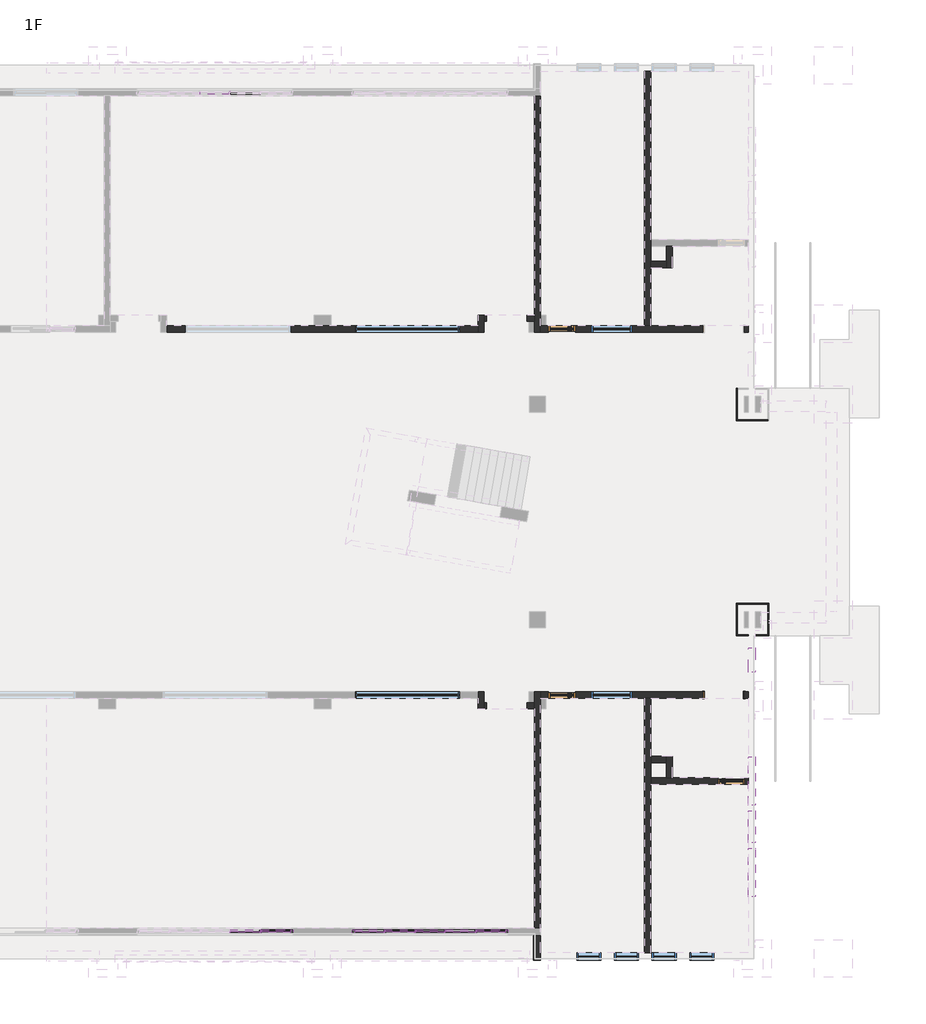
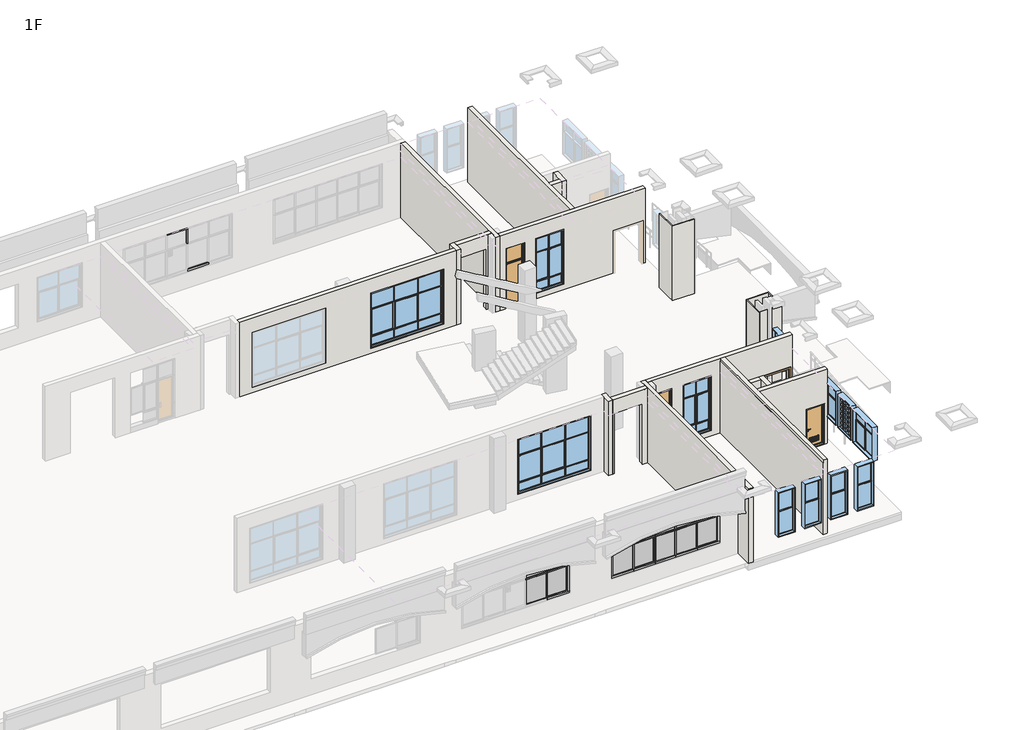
# One storey, part 6 of 16: 36 members, 24 walls, 12 windows, 11 plates, 4 doors.
"""IFC4 building model written with IfcOpenShell, lengths in millimetres."""

from ifc_helpers import new_model, si_unit, origin, origin_with_axes, place, context, project, spatial, polyline, outline, extrude, faceted_brep, transform, mapped, element, save
from components import dk2_dk2_fd451be2, m2_m2_dfb05117, m2_m2_a1934b10, m3_m3_9c525ee5, member_7564be38, member_1f4d75dd, member_0b7842ad, member_163d5e45, member_ffafc35e, member_2b011958, member_9c26cac3, member_6c42befd, member_a374fdad, plate_f4dba16c, plate_1cc4df2b, plate_4fa5932a, plate_00f9c624, plate_18a10205, window_f154a97f, lc1_lc1_e150ab57, lc2_lc2_a0e1ef0e, lc5_lc5_223d64ff, lc5_lc5_9ec79463, lc6_lc6_03a52bd1, lc7_lc7_d4e3c0d7, lc7a_lc7a_17cb4d8c

model = new_model("IFC4")

# Units and contexts
model_context = context("Model", 3, world=origin())
ifc_project = project(units=[si_unit("LENGTHUNIT", "METRE", prefix="MILLI")], contexts=[model_context])

# Site, building, storey
site = spatial("IfcSite", under=ifc_project)
building = spatial("IfcBuilding", under=site)
storey = spatial("IfcBuildingStorey", under=building, Name="1F", Elevation=0.0)

# Doors
placement = place(None, origin())
dk2_dk2_shape = dk2_dk2_fd451be2(model_context)
element("IfcDoor", 1, ObjectType="DK2 : DK2", at=placement, inside=storey, context=model_context, shape_type="MappedRepresentation", body=[
    mapped(dk2_dk2_shape, transform((81925.0, 9800.7769004, 0.0), x_axis=(-1.0, 0.0, 0.0), y_axis=(0.0, -1.0, 0.0), z_axis=(0.0, 0.0, 1.0))),
])
m2_m2_shape = m2_m2_dfb05117(model_context)
element("IfcDoor", 2, ObjectType="M2 : M2", at=placement, inside=storey, context=model_context, shape_type="MappedRepresentation", body=[
    mapped(m2_m2_shape, transform((75909.9999978, 23399.2230996, 0.0), x_axis=(1.0, 0.0, 0.0), y_axis=(0.0, 1.0, 0.0), z_axis=(0.0, 0.0, 1.0))),
])
m2_m2_2_shape = m2_m2_a1934b10(model_context)
element("IfcDoor", 3, ObjectType="M2 : M2", at=placement, inside=storey, context=model_context, shape_type="MappedRepresentation", body=[
    mapped(m2_m2_2_shape, transform((75909.9999978, 9800.7769004, 0.0), x_axis=(1.0, 0.0, 0.0), y_axis=(0.0, 1.0, 0.0), z_axis=(0.0, 0.0, 1.0))),
])
m3_m3_shape = m3_m3_9c525ee5(model_context)
element("IfcDoor", 4, ObjectType="M3 : M3", at=placement, inside=storey, context=model_context, shape_type="MappedRepresentation", body=[
    mapped(m3_m3_shape, transform((82209.9999983, 6600.7769004, 0.0), x_axis=(-1.0, 0.0, 0.0), y_axis=(0.0, -1.0, 0.0), z_axis=(0.0, 0.0, 1.0))),
])

# Members
member_shape = member_7564be38(model_context)
element("IfcMember", 5, ObjectType="矩形竖梃 : 教学楼 – 矩形竖梃 – 100x150mm", at=placement, inside=storey, context=model_context, shape_type="MappedRepresentation", body=[
    mapped(member_shape, transform((65909.9999985, 1000.0, 3400.0), x_axis=(0.0, 0.0, 1.0), y_axis=(0.0, -1.0, 0.0), z_axis=(1.0, 0.0, 0.0))),
])
element("IfcMember", 6, ObjectType="矩形竖梃 : 教学楼 – 矩形竖梃 – 100x150mm", at=placement, inside=storey, context=model_context, shape_type="MappedRepresentation", body=[
    mapped(member_shape, transform((73909.9999985, 1000.0, 3400.0), x_axis=(0.0, 0.0, 1.0), y_axis=(0.0, -1.0, 0.0), z_axis=(1.0, 0.0, 0.0))),
])
element("IfcMember", 7, ObjectType="矩形竖梃 : 教学楼 – 矩形竖梃 – 100x150mm", at=placement, inside=storey, context=model_context, shape_type="MappedRepresentation", body=[
    mapped(member_shape, transform((68109.9999985, 1000.0, 900.0), x_axis=(0.0, 0.0, -1.0), y_axis=(0.0, -1.0, 0.0), z_axis=(-1.0, 0.0, 0.0))),
])
member_2_shape = member_1f4d75dd(model_context)
element("IfcMember", 8, ObjectType="矩形竖梃 : 教学楼 – 矩形竖梃 – 50x150mm", at=placement, inside=storey, context=model_context, shape_type="MappedRepresentation", body=[
    mapped(member_2_shape, transform((70459.9999985, 1000.0, 1000.0), x_axis=(1.0, 0.0, 0.0), y_axis=(0.0, -1.0, 0.0), z_axis=(0.0, 0.0, -1.0))),
])
element("IfcMember", 9, ObjectType="矩形竖梃 : 教学楼 – 矩形竖梃 – 50x150mm", at=placement, inside=storey, context=model_context, shape_type="MappedRepresentation", body=[
    mapped(member_2_shape, transform((71559.9999985, 1000.0, 1000.0), x_axis=(1.0, 0.0, 0.0), y_axis=(0.0, -1.0, 0.0), z_axis=(0.0, 0.0, -1.0))),
])
member_3_shape = member_0b7842ad(model_context)
element("IfcMember", 10, ObjectType="矩形竖梃 : 教学楼 – 矩形竖梃 – 50x150mm", at=placement, inside=storey, context=model_context, shape_type="MappedRepresentation", body=[
    mapped(member_3_shape, transform((69309.9999985, 1000.0, 2450.0), x_axis=(0.0, 0.0, 1.0), y_axis=(0.0, -1.0, 0.0), z_axis=(1.0, 0.0, 0.0))),
])
member_4_shape = member_163d5e45(model_context)
element("IfcMember", 11, ObjectType="矩形竖梃 : 教学楼 – 矩形竖梃 – 50x150mm", at=placement, inside=storey, context=model_context, shape_type="MappedRepresentation", body=[
    mapped(member_4_shape, transform((64709.9999985, 1000.0, 2450.0), x_axis=(0.0, 0.0, 1.0), y_axis=(0.0, -1.0, 0.0), z_axis=(1.0, 0.0, 0.0))),
])
element("IfcMember", 12, ObjectType="矩形竖梃 : 教学楼 – 矩形竖梃 – 50x150mm", at=placement, inside=storey, context=model_context, shape_type="MappedRepresentation", body=[
    mapped(member_4_shape, transform((70459.9999985, 1000.0, 2450.0), x_axis=(0.0, 0.0, 1.0), y_axis=(0.0, -1.0, 0.0), z_axis=(1.0, 0.0, 0.0))),
])
element("IfcMember", 13, ObjectType="矩形竖梃 : 教学楼 – 矩形竖梃 – 50x150mm", at=placement, inside=storey, context=model_context, shape_type="MappedRepresentation", body=[
    mapped(member_4_shape, transform((72709.9999985, 1000.0, 2450.0), x_axis=(0.0, 0.0, 1.0), y_axis=(0.0, -1.0, 0.0), z_axis=(1.0, 0.0, 0.0))),
])
element("IfcMember", 14, ObjectType="矩形竖梃 : 教学楼 – 矩形竖梃 – 50x150mm", at=placement, inside=storey, context=model_context, shape_type="MappedRepresentation", body=[
    mapped(member_3_shape, transform((71559.9999985, 1000.0, 2450.0), x_axis=(0.0, 0.0, 1.0), y_axis=(0.0, -1.0, 0.0), z_axis=(1.0, 0.0, 0.0))),
])
element("IfcMember", 15, ObjectType="矩形竖梃 : 教学楼 – 矩形竖梃 – 50x150mm", at=placement, inside=storey, context=model_context, shape_type="MappedRepresentation", body=[
    mapped(member_3_shape, transform((65809.9999985, 1000.0, 2450.0), x_axis=(0.0, 0.0, 1.0), y_axis=(0.0, -1.0, 0.0), z_axis=(1.0, 0.0, 0.0))),
])
element("IfcMember", 16, ObjectType="矩形竖梃 : 教学楼 – 矩形竖梃 – 50x150mm", at=placement, inside=storey, context=model_context, shape_type="MappedRepresentation", body=[
    mapped(member_3_shape, transform((73809.9999985, 1000.0, 2450.0), x_axis=(0.0, 0.0, 1.0), y_axis=(0.0, -1.0, 0.0), z_axis=(1.0, 0.0, 0.0))),
])
member_5_shape = member_ffafc35e(model_context)
element("IfcMember", 17, ObjectType="矩形竖梃 : 教学楼 – 矩形竖梃 – 100x150mm", at=placement, inside=storey, context=model_context, shape_type="MappedRepresentation", body=[
    mapped(member_5_shape, transform((69309.9999985, 1000.0, 900.0), x_axis=(0.0, 0.0, -1.0), y_axis=(0.0, -1.0, 0.0), z_axis=(-1.0, 0.0, 0.0))),
])
member_6_shape = member_2b011958(model_context)
element("IfcMember", 18, ObjectType="矩形竖梃 : 教学楼 – 矩形竖梃 – 100x150mm", at=placement, inside=storey, context=model_context, shape_type="MappedRepresentation", body=[
    mapped(member_6_shape, transform((70459.9999985, 1000.0, 900.0), x_axis=(0.0, 0.0, -1.0), y_axis=(0.0, -1.0, 0.0), z_axis=(-1.0, 0.0, 0.0))),
])
element("IfcMember", 19, ObjectType="矩形竖梃 : 教学楼 – 矩形竖梃 – 100x150mm", at=placement, inside=storey, context=model_context, shape_type="MappedRepresentation", body=[
    mapped(member_5_shape, transform((71559.9999985, 1000.0, 900.0), x_axis=(0.0, 0.0, -1.0), y_axis=(0.0, -1.0, 0.0), z_axis=(-1.0, 0.0, 0.0))),
])
element("IfcMember", 20, ObjectType="矩形竖梃 : 教学楼 – 矩形竖梃 – 100x150mm", at=placement, inside=storey, context=model_context, shape_type="MappedRepresentation", body=[
    mapped(member_shape, transform((64709.9999985, 1000.0, 900.0), x_axis=(0.0, 0.0, -1.0), y_axis=(0.0, -1.0, 0.0), z_axis=(-1.0, 0.0, 0.0))),
])
element("IfcMember", 21, ObjectType="矩形竖梃 : 教学楼 – 矩形竖梃 – 100x150mm", at=placement, inside=storey, context=model_context, shape_type="MappedRepresentation", body=[
    mapped(member_shape, transform((72709.9999985, 1000.0, 900.0), x_axis=(0.0, 0.0, -1.0), y_axis=(0.0, -1.0, 0.0), z_axis=(-1.0, 0.0, 0.0))),
])
element("IfcMember", 22, ObjectType="矩形竖梃 : 教学楼 – 矩形竖梃 – 100x150mm", at=placement, inside=storey, context=model_context, shape_type="MappedRepresentation", body=[
    mapped(member_shape, transform((69309.9999985, 1000.0, 3400.0), x_axis=(0.0, 0.0, 1.0), y_axis=(0.0, -1.0, 0.0), z_axis=(1.0, 0.0, 0.0))),
])
element("IfcMember", 23, ObjectType="矩形竖梃 : 教学楼 – 矩形竖梃 – 100x150mm", at=placement, inside=storey, context=model_context, shape_type="MappedRepresentation", body=[
    mapped(member_5_shape, transform((64709.9999985, 1000.0, 3400.0), x_axis=(0.0, 0.0, 1.0), y_axis=(0.0, -1.0, 0.0), z_axis=(1.0, 0.0, 0.0))),
])
element("IfcMember", 24, ObjectType="矩形竖梃 : 教学楼 – 矩形竖梃 – 100x150mm", at=placement, inside=storey, context=model_context, shape_type="MappedRepresentation", body=[
    mapped(member_5_shape, transform((70459.9999985, 1000.0, 3400.0), x_axis=(0.0, 0.0, 1.0), y_axis=(0.0, -1.0, 0.0), z_axis=(1.0, 0.0, 0.0))),
])
element("IfcMember", 25, ObjectType="矩形竖梃 : 教学楼 – 矩形竖梃 – 100x150mm", at=placement, inside=storey, context=model_context, shape_type="MappedRepresentation", body=[
    mapped(member_5_shape, transform((72709.9999985, 1000.0, 3400.0), x_axis=(0.0, 0.0, 1.0), y_axis=(0.0, -1.0, 0.0), z_axis=(1.0, 0.0, 0.0))),
])
element("IfcMember", 26, ObjectType="矩形竖梃 : 教学楼 – 矩形竖梃 – 100x150mm", at=placement, inside=storey, context=model_context, shape_type="MappedRepresentation", body=[
    mapped(member_6_shape, transform((71559.9999985, 1000.0, 3400.0), x_axis=(0.0, 0.0, 1.0), y_axis=(0.0, -1.0, 0.0), z_axis=(1.0, 0.0, 0.0))),
])
member_7_shape = member_9c26cac3(model_context)
element("IfcMember", 27, ObjectType="矩形竖梃 : 教学楼 – 矩形竖梃 – 50x150mm", at=placement, inside=storey, context=model_context, shape_type="MappedRepresentation", body=[
    mapped(member_7_shape, transform((64709.9999985, 1000.0, 2475.0), x_axis=(1.0, 0.0, 0.0), y_axis=(0.0, -1.0, 0.0), z_axis=(0.0, 0.0, -1.0))),
])
element("IfcMember", 28, ObjectType="矩形竖梃 : 教学楼 – 矩形竖梃 – 50x150mm", at=placement, inside=storey, context=model_context, shape_type="MappedRepresentation", body=[
    mapped(member_7_shape, transform((69309.9999985, 1000.0, 2475.0), x_axis=(1.0, 0.0, 0.0), y_axis=(0.0, -1.0, 0.0), z_axis=(0.0, 0.0, -1.0))),
])
element("IfcMember", 29, ObjectType="矩形竖梃 : 教学楼 – 矩形竖梃 – 50x150mm", at=placement, inside=storey, context=model_context, shape_type="MappedRepresentation", body=[
    mapped(member_7_shape, transform((70459.9999985, 1000.0, 2475.0), x_axis=(1.0, 0.0, 0.0), y_axis=(0.0, -1.0, 0.0), z_axis=(0.0, 0.0, -1.0))),
])
element("IfcMember", 30, ObjectType="矩形竖梃 : 教学楼 – 矩形竖梃 – 50x150mm", at=placement, inside=storey, context=model_context, shape_type="MappedRepresentation", body=[
    mapped(member_7_shape, transform((71559.9999985, 1000.0, 2475.0), x_axis=(1.0, 0.0, 0.0), y_axis=(0.0, -1.0, 0.0), z_axis=(0.0, 0.0, -1.0))),
])
element("IfcMember", 31, ObjectType="矩形竖梃 : 教学楼 – 矩形竖梃 – 50x150mm", at=placement, inside=storey, context=model_context, shape_type="MappedRepresentation", body=[
    mapped(member_7_shape, transform((72709.9999985, 1000.0, 2475.0), x_axis=(1.0, 0.0, 0.0), y_axis=(0.0, -1.0, 0.0), z_axis=(0.0, 0.0, -1.0))),
])
member_8_shape = member_6c42befd(model_context)
element("IfcMember", 32, ObjectType="矩形竖梃 : 教学楼 – 矩形竖梃 – 100x150mm", at=placement, inside=storey, context=model_context, shape_type="MappedRepresentation", body=[
    mapped(member_8_shape, transform((68109.9999985, 1000.0, 3300.0), x_axis=(-1.0, 0.0, 0.0), y_axis=(0.0, -1.0, 0.0), z_axis=(0.0, 0.0, 1.0))),
])
member_9_shape = member_a374fdad(model_context)
element("IfcMember", 33, ObjectType="矩形竖梃 : 教学楼 – 矩形竖梃 – 100x150mm", at=placement, inside=storey, context=model_context, shape_type="MappedRepresentation", body=[
    mapped(member_9_shape, transform((65909.9999985, 1000.0, 1000.0), x_axis=(1.0, 0.0, 0.0), y_axis=(0.0, -1.0, 0.0), z_axis=(0.0, 0.0, -1.0))),
])
element("IfcMember", 34, ObjectType="矩形竖梃 : 教学楼 – 矩形竖梃 – 100x150mm", at=placement, inside=storey, context=model_context, shape_type="MappedRepresentation", body=[
    mapped(member_9_shape, transform((73909.9999985, 1000.0, 1000.0), x_axis=(1.0, 0.0, 0.0), y_axis=(0.0, -1.0, 0.0), z_axis=(0.0, 0.0, -1.0))),
])
element("IfcMember", 35, ObjectType="矩形竖梃 : 教学楼 – 矩形竖梃 – 100x150mm", at=placement, inside=storey, context=model_context, shape_type="MappedRepresentation", body=[
    mapped(member_8_shape, transform((65909.9999985, 1000.0, 2450.0), x_axis=(1.0, 0.0, 0.0), y_axis=(0.0, -1.0, 0.0), z_axis=(0.0, 0.0, -1.0))),
])
element("IfcMember", 36, ObjectType="矩形竖梃 : 教学楼 – 矩形竖梃 – 100x150mm", at=placement, inside=storey, context=model_context, shape_type="MappedRepresentation", body=[
    mapped(member_8_shape, transform((73909.9999985, 1000.0, 2450.0), x_axis=(1.0, 0.0, 0.0), y_axis=(0.0, -1.0, 0.0), z_axis=(0.0, 0.0, -1.0))),
])
element("IfcMember", 37, ObjectType="矩形竖梃 : 教学楼 – 矩形竖梃 – 100x150mm", at=placement, inside=storey, context=model_context, shape_type="MappedRepresentation", body=[
    mapped(member_9_shape, transform((68109.9999985, 1000.0, 2450.0), x_axis=(-1.0, 0.0, 0.0), y_axis=(0.0, -1.0, 0.0), z_axis=(0.0, 0.0, 1.0))),
])
element("IfcMember", 38, ObjectType="矩形竖梃 : 教学楼 – 矩形竖梃 – 100x150mm", at=placement, inside=storey, context=model_context, shape_type="MappedRepresentation", body=[
    mapped(member_5_shape, transform((63550.0000002, 32200.0, 900.0), x_axis=(0.0, 0.0, -1.0), y_axis=(0.0, -1.0, 0.0), z_axis=(-1.0, 0.0, 0.0))),
])
element("IfcMember", 39, ObjectType="矩形竖梃 : 教学楼 – 矩形竖梃 – 100x150mm", at=placement, inside=storey, context=model_context, shape_type="MappedRepresentation", body=[
    mapped(member_6_shape, transform((63550.0000002, 32200.0, 3400.0), x_axis=(0.0, 0.0, 1.0), y_axis=(0.0, -1.0, 0.0), z_axis=(1.0, 0.0, 0.0))),
])
element("IfcMember", 40, ObjectType="矩形竖梃 : 教学楼 – 矩形竖梃 – 50x150mm", at=placement, inside=storey, context=model_context, shape_type="MappedRepresentation", body=[
    mapped(member_7_shape, transform((63550.0000002, 32200.0, 2475.0), x_axis=(1.0, 0.0, 0.0), y_axis=(0.0, -1.0, 0.0), z_axis=(0.0, 0.0, -1.0))),
])

# Plates
plate_shape = plate_f4dba16c(model_context)
element("IfcPlate", 41, ObjectType="系统嵌板 : 玻璃", at=placement, inside=storey, context=model_context, shape_type="MappedRepresentation", body=[
    mapped(plate_shape, transform((71009.9999985, 1000.0, 1000.0), x_axis=(1.0, 0.0, 0.0), y_axis=(0.0, 1.0, 0.0), z_axis=(0.0, 0.0, 1.0))),
])
plate_2_shape = plate_1cc4df2b(model_context)
element("IfcPlate", 42, ObjectType="系统嵌板 : 玻璃", at=placement, inside=storey, context=model_context, shape_type="MappedRepresentation", body=[
    mapped(plate_2_shape, transform((65272.4999985, 1000.0, 2475.0), x_axis=(1.0, 0.0, 0.0), y_axis=(0.0, 1.0, 0.0), z_axis=(0.0, 0.0, 1.0))),
])
element("IfcPlate", 43, ObjectType="系统嵌板 : 玻璃", at=placement, inside=storey, context=model_context, shape_type="MappedRepresentation", body=[
    mapped(plate_2_shape, transform((68747.4999985, 1000.0, 2475.0), x_axis=(1.0, 0.0, 0.0), y_axis=(0.0, 1.0, 0.0), z_axis=(0.0, 0.0, 1.0))),
])
element("IfcPlate", 44, ObjectType="系统嵌板 : 玻璃", at=placement, inside=storey, context=model_context, shape_type="MappedRepresentation", body=[
    mapped(plate_2_shape, transform((73272.4999985, 1000.0, 2475.0), x_axis=(1.0, 0.0, 0.0), y_axis=(0.0, 1.0, 0.0), z_axis=(0.0, 0.0, 1.0))),
])
plate_3_shape = plate_4fa5932a(model_context)
element("IfcPlate", 45, ObjectType="系统嵌板 : 玻璃", at=placement, inside=storey, context=model_context, shape_type="MappedRepresentation", body=[
    mapped(plate_3_shape, transform((64134.9999985, 1000.0, 2475.0), x_axis=(1.0, 0.0, 0.0), y_axis=(0.0, 1.0, 0.0), z_axis=(0.0, 0.0, 1.0))),
])
element("IfcPlate", 46, ObjectType="系统嵌板 : 玻璃", at=placement, inside=storey, context=model_context, shape_type="MappedRepresentation", body=[
    mapped(plate_3_shape, transform((69884.9999985, 1000.0, 2475.0), x_axis=(1.0, 0.0, 0.0), y_axis=(0.0, 1.0, 0.0), z_axis=(0.0, 0.0, 1.0))),
])
element("IfcPlate", 47, ObjectType="系统嵌板 : 玻璃", at=placement, inside=storey, context=model_context, shape_type="MappedRepresentation", body=[
    mapped(plate_3_shape, transform((72134.9999985, 1000.0, 2475.0), x_axis=(1.0, 0.0, 0.0), y_axis=(0.0, 1.0, 0.0), z_axis=(0.0, 0.0, 1.0))),
])
plate_4_shape = plate_00f9c624(model_context)
element("IfcPlate", 48, ObjectType="系统嵌板 : 玻璃", at=placement, inside=storey, context=model_context, shape_type="MappedRepresentation", body=[
    mapped(plate_4_shape, transform((71009.9999985, 1000.0, 2475.0), x_axis=(1.0, 0.0, 0.0), y_axis=(0.0, 1.0, 0.0), z_axis=(0.0, 0.0, 1.0))),
])
plate_5_shape = plate_18a10205(model_context)
element("IfcPlate", 49, ObjectType="教学楼 - 窗嵌板：双扇推拉窗 : 教学楼 - 窗嵌板：双扇推拉窗", at=placement, inside=storey, context=model_context, shape_type="MappedRepresentation", body=[
    mapped(plate_5_shape, transform((69322.4999985, 1000.0, 1000.0), x_axis=(1.0, 0.0, 0.0), y_axis=(0.0, 1.0, 0.0), z_axis=(0.0, 0.0, 1.0))),
])
element("IfcPlate", 50, ObjectType="教学楼 - 窗嵌板：双扇推拉窗 : 教学楼 - 窗嵌板：双扇推拉窗", at=placement, inside=storey, context=model_context, shape_type="MappedRepresentation", body=[
    mapped(plate_5_shape, transform((64697.4999985, 1000.0, 1000.0), x_axis=(1.0, 0.0, 0.0), y_axis=(0.0, 1.0, 0.0), z_axis=(0.0, 0.0, 1.0))),
])
element("IfcPlate", 51, ObjectType="教学楼 - 窗嵌板：双扇推拉窗 : 教学楼 - 窗嵌板：双扇推拉窗", at=placement, inside=storey, context=model_context, shape_type="MappedRepresentation", body=[
    mapped(plate_5_shape, transform((72697.4999985, 1000.0, 1000.0), x_axis=(1.0, 0.0, 0.0), y_axis=(0.0, 1.0, 0.0), z_axis=(0.0, 0.0, 1.0))),
])

# Walls
element("IfcWall", 52, ObjectType="教学楼 – 文化石外墙 – 200mm", at=placement, inside=storey, context=model_context, shape_type="Brep", body=[
    faceted_brep([(74847.0, 865.0, 0.0), (74847.0, 300.0, 0.0), (74847.0, -52.6954642, 0.0), (74847.0, -52.6954642, 4200.0), (74847.0, 300.0, 4200.0), (74847.0, 865.0, 4200.0), (75117.0, 865.0, 0.0), (75117.0, 865.0, 4200.0), (75117.0, 300.0, 4200.0), (75117.0, 217.3045358, 4200.0), (75117.0, -52.6954642, 4200.0), (75117.0, -52.6954642, 0.0), (75117.0, 217.3045358, 0.0), (75117.0, 300.0, 0.0)], [[[0, 1, 2, 3, 4, 5]], [[6, 7, 8, 9, 10, 11, 12, 13]], [[2, 1, 0, 6, 13, 12, 11]], [[5, 4, 3, 10, 9, 8, 7]], [[0, 5, 7, 6]], [[3, 2, 11, 10]]]),
])
element("IfcWall", 53, ObjectType="教学楼 – 涂料内墙 – 200mm", at=placement, inside=storey, context=model_context, shape_type="Brep", body=[
    faceted_brep([(74883.0, 32065.0, 0.0), (74883.0, 23917.0, 0.0), (74883.0, 23916.7231011, 0.0), (74883.0, 23682.7231011, 0.0), (74883.0, 23283.0, 0.0), (74883.0, 23282.2230996, 0.0), (74883.0, 23282.2230996, 4200.0), (74883.0, 23283.0, 4200.0), (74883.0, 23682.7231011, 4200.0), (74883.0, 23916.7231011, 4200.0), (74883.0, 23917.0, 4200.0), (74883.0, 32065.0, 4200.0), (75117.0, 32065.0, 0.0), (75117.0, 32065.0, 4200.0), (75117.0, 23917.0, 4200.0), (75117.0, 23516.2230996, 4200.0), (75117.0, 23282.2230996, 4200.0), (75117.0, 23282.2230996, 0.0), (75117.0, 23516.2230996, 0.0), (75117.0, 23917.0, 0.0)], [[[0, 1, 2, 3, 4, 5, 6, 7, 8, 9, 10, 11]], [[12, 13, 14, 15, 16, 17, 18, 19]], [[5, 4, 3, 2, 1, 0, 12, 19, 18, 17]], [[11, 10, 9, 8, 7, 6, 16, 15, 14, 13]], [[6, 5, 17, 16]], [[0, 11, 13, 12]]]),
])
element("IfcWall", 54, ObjectType="教学楼 – 涂料内墙 – 200mm", at=placement, inside=storey, context=model_context, shape_type="Brep", body=[
    faceted_brep([(78983.0000003, 32982.6954642, 0.0), (78983.0000003, 23516.2230996, 0.0), (78983.0000003, 23516.2230996, 4200.0), (78983.0000003, 32982.6954642, 4200.0), (79217.0000003, 32982.6954642, 0.0), (79217.0000003, 32982.6954642, 4200.0), (79217.0000003, 26716.2230996, 4200.0), (79217.0000003, 26482.2230996, 4200.0), (79217.0000003, 25916.2230996, 4200.0), (79217.0000003, 25682.2230996, 4200.0), (79217.0000003, 23516.2230996, 4200.0), (79217.0000003, 23516.2230996, 0.0), (79217.0000003, 25682.2230996, 0.0), (79217.0000003, 25916.2230996, 0.0), (79217.0000003, 26482.2230996, 0.0), (79217.0000003, 26716.2230996, 0.0)], [[[0, 1, 2, 3]], [[4, 5, 6, 7, 8, 9, 10, 11, 12, 13, 14, 15]], [[1, 0, 4, 15, 14, 13, 12, 11]], [[3, 2, 10, 9, 8, 7, 6, 5]], [[2, 1, 11, 10]], [[0, 3, 5, 4]]]),
])
element("IfcWall", 55, ObjectType="教学楼 – 涂料内墙 – 200mm", at=placement, inside=storey, context=model_context, shape_type="Brep", body=[
    faceted_brep([(82832.9999995, 23282.2230996, 4200.0), (75117.0, 23282.2230996, 4200.0), (75117.0, 23282.2230996, 0.0), (75409.9999978, 23282.2230996, 0.0), (75409.9999978, 23282.2230996, 3400.0), (76409.9999978, 23282.2230996, 3400.0), (76409.9999978, 23282.2230996, 0.0), (81150.0, 23282.2230996, 0.0), (81150.0, 23282.2230996, 2400.0), (82700.0, 23282.2230996, 2400.0), (82700.0, 23282.2230996, 0.0), (82832.9999995, 23282.2230996, 0.0), (77009.999993, 23282.2230996, 300.0), (77009.999993, 23282.2230996, 3400.0), (78509.999993, 23282.2230996, 3400.0), (78509.999993, 23282.2230996, 300.0), (75117.0, 23516.2230996, 4200.0), (75317.0, 23516.2230996, 4200.0), (78983.0000003, 23516.2230996, 4200.0), (79217.0000003, 23516.2230996, 4200.0), (82700.0, 23516.2230996, 4200.0), (82832.9999995, 23516.2230996, 4200.0), (82832.9999995, 23516.2230996, 0.0), (82700.0, 23516.2230996, 0.0), (82700.0, 23516.2230996, 2400.0), (81150.0, 23516.2230996, 2400.0), (81150.0, 23516.2230996, 0.0), (79217.0000003, 23516.2230996, 0.0), (78983.0000003, 23516.2230996, 0.0), (76409.9999978, 23516.2230996, 0.0), (76409.9999978, 23516.2230996, 3400.0), (75409.9999978, 23516.2230996, 3400.0), (75409.9999978, 23516.2230996, 0.0), (75317.0, 23516.2230996, 0.0), (75117.0, 23516.2230996, 0.0), (77009.999993, 23516.2230996, 300.0), (78509.999993, 23516.2230996, 300.0), (78509.999993, 23516.2230996, 3400.0), (77009.999993, 23516.2230996, 3400.0), (82832.9999995, 23300.0, 0.0), (82700.0, 23300.0, 0.0)], [[[0, 1, 2, 3, 4, 5, 6, 7, 8, 9, 10, 11], [12, 13, 14, 15]], [[16, 17, 18, 19, 20, 21, 22, 23, 24, 25, 26, 27, 28, 29, 30, 31, 32, 33, 34], [35, 36, 37, 38]], [[2, 34, 33, 32, 3]], [[26, 7, 6, 29, 28, 27]], [[22, 39, 11, 10, 40, 23]], [[1, 0, 21, 20, 19, 18, 17, 16]], [[2, 1, 16, 34]], [[0, 11, 39, 22, 21]], [[9, 24, 23, 40, 10]], [[24, 9, 8, 25]], [[25, 8, 7, 26]], [[13, 12, 35, 38]], [[14, 13, 38, 37]], [[15, 14, 37, 36]], [[12, 15, 36, 35]], [[5, 30, 29, 6]], [[30, 5, 4, 31]], [[31, 4, 3, 32]]]),
])
element("IfcWall", 56, ObjectType="教学楼 – 涂料内墙 – 200mm", at=placement, inside=storey, context=model_context, shape_type="Brep", body=[
    faceted_brep([(74883.0, 23682.7231011, 4200.0), (74683.0, 23682.7231011, 4200.0), (73017.0, 23682.7231011, 4200.0), (73017.0, 23682.7231011, 0.0), (73109.9999976, 23682.7231011, 0.0), (73109.9999976, 23682.7231011, 3400.0), (74609.9999976, 23682.7231011, 3400.0), (74609.9999976, 23682.7231011, 0.0), (74683.0, 23682.7231011, 0.0), (74883.0, 23682.7231011, 0.0), (73017.0, 23916.7231011, 4200.0), (74683.0, 23916.7231011, 4200.0), (74883.0, 23916.7231011, 4200.0), (74883.0, 23916.7231011, 0.0), (74683.0, 23916.7231011, 0.0), (74609.9999976, 23916.7231011, 0.0), (74609.9999976, 23916.7231011, 3400.0), (73109.9999976, 23916.7231011, 3400.0), (73109.9999976, 23916.7231011, 0.0), (73017.0, 23916.7231011, 0.0)], [[[0, 1, 2, 3, 4, 5, 6, 7, 8, 9]], [[10, 11, 12, 13, 14, 15, 16, 17, 18, 19]], [[3, 19, 18, 4]], [[13, 9, 8, 7, 15, 14]], [[2, 1, 0, 12, 11, 10]], [[3, 2, 10, 19]], [[0, 9, 13, 12]], [[17, 5, 4, 18]], [[5, 17, 16, 6]], [[6, 16, 15, 7]]]),
])
element("IfcWall", 57, ObjectType="教学楼 – 涂料内墙 – 200mm", at=placement, inside=storey, context=model_context, shape_type="Brep", body=[
    faceted_brep([(72783.0, 23916.7231011, 0.0), (72783.0, 23516.6954638, 0.0), (72783.0, 23282.6954638, 0.0), (72783.0, 23282.6954638, 4200.0), (72783.0, 23516.6954638, 4200.0), (72783.0, 23916.7231011, 4200.0), (73017.0, 23916.7231011, 0.0), (73017.0, 23916.7231011, 4200.0), (73017.0, 23682.7231011, 4200.0), (73017.0, 23282.6954638, 4200.0), (73017.0, 23282.6954638, 0.0), (73017.0, 23682.7231011, 0.0)], [[[0, 1, 2, 3, 4, 5]], [[6, 7, 8, 9, 10, 11]], [[2, 1, 0, 6, 11, 10]], [[5, 4, 3, 9, 8, 7]], [[3, 2, 10, 9]], [[0, 5, 7, 6]]]),
])
element("IfcWall", 58, ObjectType="教学楼 – 涂料内墙 – 200mm", at=placement, inside=storey, context=model_context, shape_type="Brep", body=[
    faceted_brep([(72783.0, 23516.6954638, 0.0), (67317.0, 23516.6954638, 0.0), (66683.0, 23516.6954638, 0.0), (61217.0000032, 23516.6954638, 0.0), (61217.0000032, 23516.6954638, 4200.0), (66683.0, 23516.6954638, 4200.0), (67317.0, 23516.6954638, 4200.0), (72783.0, 23516.6954638, 4200.0), (68210.0, 23516.6954638, 300.0), (72110.0, 23516.6954638, 300.0), (72110.0, 23516.6954638, 3400.0), (68210.0, 23516.6954638, 3400.0), (65810.0, 23516.6954638, 300.0), (65810.0, 23516.6954638, 3400.0), (61910.0, 23516.6954638, 3400.0), (61910.0, 23516.6954638, 300.0), (72783.0, 23282.6954638, 0.0), (72783.0, 23282.6954638, 4200.0), (61217.0000032, 23282.6954638, 4200.0), (61217.0000032, 23282.6954638, 0.0), (68210.0, 23282.6954638, 300.0), (68210.0, 23282.6954638, 3400.0), (72110.0, 23282.6954638, 3400.0), (72110.0, 23282.6954638, 300.0), (65810.0, 23282.6954638, 300.0), (61910.0, 23282.6954638, 300.0), (61910.0, 23282.6954638, 3400.0), (65810.0, 23282.6954638, 3400.0)], [[[0, 1, 2, 3, 4, 5, 6, 7], [8, 9, 10, 11], [12, 13, 14, 15]], [[16, 17, 18, 19], [20, 21, 22, 23], [24, 25, 26, 27]], [[3, 2, 1, 0, 16, 19]], [[7, 6, 5, 4, 18, 17]], [[0, 7, 17, 16]], [[4, 3, 19, 18]], [[21, 20, 8, 11]], [[22, 21, 11, 10]], [[23, 22, 10, 9]], [[20, 23, 9, 8]], [[13, 12, 24, 27]], [[14, 13, 27, 26]], [[15, 14, 26, 25]], [[12, 15, 25, 24]]]),
])
element("IfcWall", 59, ObjectType="教学楼 – 涂料内墙 – 200mm", at=placement, inside=storey, context=model_context, shape_type="Brep", body=[
    faceted_brep([(79782.9999995, 26482.2230996, 0.0), (79782.9999995, 25916.2230996, 0.0), (79782.9999995, 25682.2230996, 0.0), (79782.9999995, 25682.2230996, 4200.0), (79782.9999995, 25916.2230996, 4200.0), (79782.9999995, 26482.2230996, 4200.0), (80016.9999995, 26482.2230996, 0.0), (80016.9999995, 26482.2230996, 4200.0), (80016.9999995, 25682.2230996, 4200.0), (80016.9999995, 25682.2230996, 0.0)], [[[0, 1, 2, 3, 4, 5]], [[6, 7, 8, 9]], [[2, 1, 0, 6, 9]], [[5, 4, 3, 8, 7]], [[3, 2, 9, 8]], [[0, 5, 7, 6]]]),
])
element("IfcWall", 60, ObjectType="教学楼 – 涂料内墙 – 200mm", at=placement, inside=storey, context=model_context, shape_type="SweptSolid", body=[
    extrude(outline(polyline([(79217.0000003, 25916.2230996), (79782.9999995, 25916.2230996), (79782.9999995, 25682.2230996), (79217.0000003, 25682.2230996), (79217.0000003, 25916.2230996)])), origin_with_axes(), (0.0, 0.0, 1.0), 4200.0),
])
element("IfcWall", 61, ObjectType="教学楼 – 涂料内墙 – 200mm", at=placement, inside=storey, context=model_context, shape_type="Brep", body=[
    faceted_brep([(75117.0, 1135.0, 0.0), (75117.0, 9283.0, 0.0), (75117.0, 9683.7769004, 0.0), (75117.0, 9917.7769004, 0.0), (75117.0, 9917.7769004, 4200.0), (75117.0, 9683.7769004, 4200.0), (75117.0, 9283.0, 4200.0), (75117.0, 1135.0, 4200.0), (74883.0, 1135.0, 0.0), (74883.0, 1135.0, 4200.0), (74883.0, 9283.0, 4200.0), (74883.0, 9283.2768989, 4200.0), (74883.0, 9517.2768989, 4200.0), (74883.0, 9917.0, 4200.0), (74883.0, 9917.7769004, 4200.0), (74883.0, 9917.7769004, 0.0), (74883.0, 9917.0, 0.0), (74883.0, 9517.2768989, 0.0), (74883.0, 9283.2768989, 0.0), (74883.0, 9283.0, 0.0)], [[[0, 1, 2, 3, 4, 5, 6, 7]], [[8, 9, 10, 11, 12, 13, 14, 15, 16, 17, 18, 19]], [[3, 2, 1, 0, 8, 19, 18, 17, 16, 15]], [[7, 6, 5, 4, 14, 13, 12, 11, 10, 9]], [[4, 3, 15, 14]], [[0, 7, 9, 8]]]),
])
element("IfcWall", 62, ObjectType="教学楼 – 涂料内墙 – 200mm", at=placement, inside=storey, context=model_context, shape_type="Brep", body=[
    faceted_brep([(79217.0000003, 217.3045358, 0.0), (79217.0000003, 6483.7769004, 0.0), (79217.0000003, 6717.7769004, 0.0), (79217.0000003, 7283.7769004, 0.0), (79217.0000003, 7517.7769004, 0.0), (79217.0000003, 9683.7769004, 0.0), (79217.0000003, 9683.7769004, 4200.0), (79217.0000003, 7517.7769004, 4200.0), (79217.0000003, 7283.7769004, 4200.0), (79217.0000003, 6717.7769004, 4200.0), (79217.0000003, 6483.7769004, 4200.0), (79217.0000003, 217.3045358, 4200.0), (78983.0000003, 9683.7769004, 0.0), (78983.0000003, 217.3045358, 0.0), (78983.0000003, 217.3045358, 4050.0), (78983.0000003, 9683.7769004, 4050.0), (79000.0000003, 9683.7769004, 4200.0), (79000.0000003, 217.3045358, 4200.0), (79000.0000003, 9683.7769004, 4050.0), (79000.0000003, 217.3045358, 4050.0)], [[[0, 1, 2, 3, 4, 5, 6, 7, 8, 9, 10, 11]], [[12, 13, 14, 15]], [[5, 4, 3, 2, 1, 0, 13, 12]], [[11, 10, 9, 8, 7, 6, 16, 17]], [[6, 5, 12, 15, 18, 16]], [[0, 11, 17, 19, 14, 13]], [[19, 18, 15, 14]], [[18, 19, 17, 16]]]),
])
element("IfcWall", 63, ObjectType="教学楼 – 涂料内墙 – 200mm", at=placement, inside=storey, context=model_context, shape_type="Brep", body=[
    faceted_brep([(82832.9999995, 6483.7769004, 4200.0), (79217.0000003, 6483.7769004, 4200.0), (79217.0000003, 6483.7769004, 0.0), (81709.9999983, 6483.7769004, 0.0), (81709.9999983, 6483.7769004, 2300.0), (82709.9999983, 6483.7769004, 2300.0), (82709.9999983, 6483.7769004, 0.0), (82832.9999995, 6483.7769004, 0.0), (79217.0000003, 6717.7769004, 4200.0), (79782.9999995, 6717.7769004, 4200.0), (80016.9999995, 6717.7769004, 4200.0), (82832.9999995, 6717.7769004, 4200.0), (82832.9999995, 6717.7769004, 0.0), (82709.9999983, 6717.7769004, 0.0), (82709.9999983, 6717.7769004, 2300.0), (81709.9999983, 6717.7769004, 2300.0), (81709.9999983, 6717.7769004, 0.0), (80016.9999995, 6717.7769004, 0.0), (79782.9999995, 6717.7769004, 0.0), (79217.0000003, 6717.7769004, 0.0)], [[[0, 1, 2, 3, 4, 5, 6, 7]], [[8, 9, 10, 11, 12, 13, 14, 15, 16, 17, 18, 19]], [[2, 19, 18, 17, 16, 3]], [[12, 7, 6, 13]], [[1, 0, 11, 10, 9, 8]], [[2, 1, 8, 19]], [[0, 7, 12, 11]], [[15, 4, 3, 16]], [[4, 15, 14, 5]], [[5, 14, 13, 6]]]),
])
element("IfcWall", 64, ObjectType="教学楼 – 涂料内墙 – 200mm", at=placement, inside=storey, context=model_context, shape_type="Brep", body=[
    faceted_brep([(82832.9999995, 9683.7769004, 4200.0), (82700.0, 9683.7769004, 4200.0), (79217.0000003, 9683.7769004, 4200.0), (78983.0000003, 9683.7769004, 4200.0), (75317.0, 9683.7769004, 4200.0), (75117.0, 9683.7769004, 4200.0), (75117.0, 9683.7769004, 0.0), (75317.0, 9683.7769004, 0.0), (75409.9999978, 9683.7769004, 0.0), (75409.9999978, 9683.7769004, 3400.0), (76409.9999978, 9683.7769004, 3400.0), (76409.9999978, 9683.7769004, 0.0), (78983.0000003, 9683.7769004, 0.0), (79217.0000003, 9683.7769004, 0.0), (81150.0, 9683.7769004, 0.0), (81150.0, 9683.7769004, 2400.0), (82700.0, 9683.7769004, 2400.0), (82700.0, 9683.7769004, 0.0), (82832.9999995, 9683.7769004, 0.0), (78509.9999923, 9683.7769004, 300.0), (77009.9999923, 9683.7769004, 300.0), (77009.9999923, 9683.7769004, 3400.0), (78509.9999923, 9683.7769004, 3400.0), (75117.0, 9917.7769004, 4200.0), (82832.9999995, 9917.7769004, 4200.0), (82832.9999995, 9917.7769004, 0.0), (82700.0, 9917.7769004, 0.0), (82700.0, 9917.7769004, 2400.0), (81150.0, 9917.7769004, 2400.0), (81150.0, 9917.7769004, 0.0), (76409.9999978, 9917.7769004, 0.0), (76409.9999978, 9917.7769004, 3400.0), (75409.9999978, 9917.7769004, 3400.0), (75409.9999978, 9917.7769004, 0.0), (75117.0, 9917.7769004, 0.0), (78509.9999923, 9917.7769004, 300.0), (78509.9999923, 9917.7769004, 3400.0), (77009.9999923, 9917.7769004, 3400.0), (77009.9999923, 9917.7769004, 300.0), (82832.9999995, 9900.0, 0.0), (82700.0, 9900.0, 0.0)], [[[0, 1, 2, 3, 4, 5, 6, 7, 8, 9, 10, 11, 12, 13, 14, 15, 16, 17, 18], [19, 20, 21, 22]], [[23, 24, 25, 26, 27, 28, 29, 30, 31, 32, 33, 34], [35, 36, 37, 38]], [[6, 34, 33, 8, 7]], [[29, 14, 13, 12, 11, 30]], [[25, 39, 18, 17, 40, 26]], [[5, 4, 3, 2, 1, 0, 24, 23]], [[6, 5, 23, 34]], [[0, 18, 39, 25, 24]], [[28, 15, 14, 29]], [[15, 28, 27, 16]], [[16, 27, 26, 40, 17]], [[36, 35, 19, 22]], [[37, 36, 22, 21]], [[38, 37, 21, 20]], [[35, 38, 20, 19]], [[10, 31, 30, 11]], [[31, 10, 9, 32]], [[32, 9, 8, 33]]]),
])
element("IfcWall", 65, ObjectType="教学楼 – 涂料内墙 – 200mm", at=placement, inside=storey, context=model_context, shape_type="Brep", body=[
    faceted_brep([(74883.0, 9283.2768989, 4200.0), (74683.0, 9283.2768989, 4200.0), (73017.0, 9283.2768989, 4200.0), (73017.0, 9283.2768989, 0.0), (73109.9999976, 9283.2768989, 0.0), (73109.9999976, 9283.2768989, 3400.0), (74609.9999976, 9283.2768989, 3400.0), (74609.9999976, 9283.2768989, 0.0), (74683.0, 9283.2768989, 0.0), (74883.0, 9283.2768989, 0.0), (73017.0, 9517.2768989, 4200.0), (74683.0, 9517.2768989, 4200.0), (74883.0, 9517.2768989, 4200.0), (74883.0, 9517.2768989, 0.0), (74683.0, 9517.2768989, 0.0), (74609.9999976, 9517.2768989, 0.0), (74609.9999976, 9517.2768989, 3400.0), (73109.9999976, 9517.2768989, 3400.0), (73109.9999976, 9517.2768989, 0.0), (73017.0, 9517.2768989, 0.0)], [[[0, 1, 2, 3, 4, 5, 6, 7, 8, 9]], [[10, 11, 12, 13, 14, 15, 16, 17, 18, 19]], [[3, 19, 18, 4]], [[13, 9, 8, 7, 15, 14]], [[2, 1, 0, 12, 11, 10]], [[3, 2, 10, 19]], [[0, 9, 13, 12]], [[6, 16, 15, 7]], [[16, 6, 5, 17]], [[17, 5, 4, 18]]]),
])
element("IfcWall", 66, ObjectType="教学楼 – 涂料内墙 – 200mm", at=placement, inside=storey, context=model_context, shape_type="Brep", body=[
    faceted_brep([(73017.0, 9283.2768989, 0.0), (73017.0, 9517.2768989, 0.0), (73017.0, 9917.3045361, 0.0), (73017.0, 9917.3045361, 4200.0), (73017.0, 9517.2768989, 4200.0), (73017.0, 9283.2768989, 4200.0), (72783.0, 9283.2768989, 0.0), (72783.0, 9283.2768989, 4200.0), (72783.0, 9683.3045361, 4200.0), (72783.0, 9917.3045361, 4200.0), (72783.0, 9917.3045361, 0.0), (72783.0, 9683.3045361, 0.0)], [[[0, 1, 2, 3, 4, 5]], [[6, 7, 8, 9, 10, 11]], [[2, 1, 0, 6, 11, 10]], [[5, 4, 3, 9, 8, 7]], [[0, 5, 7, 6]], [[3, 2, 10, 9]]]),
])
element("IfcWall", 67, ObjectType="教学楼 – 涂料内墙 – 200mm", at=placement, inside=storey, context=model_context, shape_type="Brep", body=[
    faceted_brep([(80016.9999995, 6717.7769004, 0.0), (80016.9999995, 7517.7769004, 0.0), (80016.9999995, 7517.7769004, 4200.0), (80016.9999995, 6717.7769004, 4200.0), (79782.9999995, 6717.7769004, 0.0), (79782.9999995, 6717.7769004, 4200.0), (79782.9999995, 7283.7769004, 4200.0), (79782.9999995, 7517.7769004, 4200.0), (79782.9999995, 7517.7769004, 0.0), (79782.9999995, 7283.7769004, 0.0)], [[[0, 1, 2, 3]], [[4, 5, 6, 7, 8, 9]], [[1, 0, 4, 9, 8]], [[3, 2, 7, 6, 5]], [[2, 1, 8, 7]], [[0, 3, 5, 4]]]),
])
element("IfcWall", 68, ObjectType="教学楼 – 涂料内墙 – 200mm", at=placement, inside=storey, context=model_context, shape_type="SweptSolid", body=[
    extrude(outline(polyline([(79217.0000003, 7517.7769004), (79782.9999995, 7517.7769004), (79782.9999995, 7283.7769004), (79217.0000003, 7283.7769004), (79217.0000003, 7517.7769004)])), origin_with_axes(), (0.0, 0.0, 1.0), 4200.0),
])
element("IfcWall", 69, ObjectType="教学楼 – 干挂石材 – 30mm", at=placement, inside=storey, context=model_context, shape_type="Brep", body=[
    faceted_brep([(83570.0000001, 20029.6902344, 0.0), (82430.0000001, 20029.6902344, 0.0), (82400.0000001, 20029.6902344, 0.0), (82400.0000001, 20029.6902344, 4200.0), (82430.0000001, 20029.6902344, 4200.0), (83570.0000001, 20029.6902344, 4200.0), (83570.0000001, 19999.6902344, 0.0), (83570.0000001, 19999.6902344, 4200.0), (82400.0000001, 19999.6902344, 4200.0), (82400.0000001, 19999.6902344, 0.0)], [[[0, 1, 2, 3, 4, 5]], [[6, 7, 8, 9]], [[2, 1, 0, 6, 9]], [[5, 4, 3, 8, 7]], [[0, 5, 7, 6]], [[3, 2, 9, 8]]]),
])
element("IfcWall", 70, ObjectType="教学楼 – 干挂石材 – 30mm", at=placement, inside=storey, context=model_context, shape_type="Brep", body=[
    faceted_brep([(82430.0000001, 20029.6902344, 0.0), (82430.0000001, 21169.6902344, 0.0), (82430.0000001, 21199.6902344, 0.0), (82430.0000001, 21199.6902344, 4200.0), (82430.0000001, 21169.6902344, 4200.0), (82430.0000001, 20029.6902344, 4200.0), (82400.0000001, 20029.6902344, 0.0), (82400.0000001, 20029.6902344, 4200.0), (82400.0000001, 21199.6902344, 4200.0), (82400.0000001, 21199.6902344, 0.0)], [[[0, 1, 2, 3, 4, 5]], [[6, 7, 8, 9]], [[2, 1, 0, 6, 9]], [[5, 4, 3, 8, 7]], [[0, 5, 7, 6]], [[3, 2, 9, 8]]]),
])
element("IfcWall", 71, ObjectType="教学楼 – 干挂石材 – 30mm", at=placement, inside=storey, context=model_context, shape_type="Brep", body=[
    faceted_brep([(83102.9999995, 12000.3097656, 0.0), (83600.0000001, 12000.3097656, 0.0), (83600.0000001, 12000.3097656, 4200.0), (83102.9999995, 12000.3097656, 4200.0), (83102.9999995, 12030.3097656, 0.0), (83102.9999995, 12030.3097656, 4200.0), (83570.0000001, 12030.3097656, 4200.0), (83600.0000001, 12030.3097656, 4200.0), (83600.0000001, 12030.3097656, 0.0), (83570.0000001, 12030.3097656, 0.0)], [[[0, 1, 2, 3]], [[4, 5, 6, 7, 8, 9]], [[1, 0, 4, 9, 8]], [[3, 2, 7, 6, 5]], [[0, 3, 5, 4]], [[2, 1, 8, 7]]]),
])
element("IfcWall", 72, ObjectType="教学楼 – 干挂石材 – 30mm", at=placement, inside=storey, context=model_context, shape_type="Brep", body=[
    faceted_brep([(83600.0000001, 12030.3097656, 0.0), (83600.0000001, 13200.3097656, 0.0), (83600.0000001, 13200.3097656, 4200.0), (83600.0000001, 12030.3097656, 4200.0), (83570.0000001, 12030.3097656, 0.0), (83570.0000001, 12030.3097656, 4200.0), (83570.0000001, 13170.3097656, 4200.0), (83570.0000001, 13200.3097656, 4200.0), (83570.0000001, 13200.3097656, 0.0), (83570.0000001, 13170.3097656, 0.0)], [[[0, 1, 2, 3]], [[4, 5, 6, 7, 8, 9]], [[1, 0, 4, 9, 8]], [[3, 2, 7, 6, 5]], [[0, 3, 5, 4]], [[2, 1, 8, 7]]]),
])
element("IfcWall", 73, ObjectType="教学楼 – 干挂石材 – 30mm", at=placement, inside=storey, context=model_context, shape_type="Brep", body=[
    faceted_brep([(83570.0000001, 13200.3097656, 0.0), (82400.0000001, 13200.3097656, 0.0), (82400.0000001, 13200.3097656, 4200.0), (83570.0000001, 13200.3097656, 4200.0), (83570.0000001, 13170.3097656, 0.0), (83570.0000001, 13170.3097656, 4200.0), (82430.0000001, 13170.3097656, 4200.0), (82400.0000001, 13170.3097656, 4200.0), (82400.0000001, 13170.3097656, 0.0), (82430.0000001, 13170.3097656, 0.0)], [[[0, 1, 2, 3]], [[4, 5, 6, 7, 8, 9]], [[1, 0, 4, 9, 8]], [[3, 2, 7, 6, 5]], [[0, 3, 5, 4]], [[2, 1, 8, 7]]]),
])
element("IfcWall", 74, ObjectType="教学楼 – 干挂石材 – 30mm", at=placement, inside=storey, context=model_context, shape_type="Brep", body=[
    faceted_brep([(82400.0000001, 13170.3097656, 0.0), (82400.0000001, 12000.3097656, 0.0), (82400.0000001, 12000.3097656, 4200.0), (82400.0000001, 13170.3097656, 4200.0), (82430.0000001, 13170.3097656, 0.0), (82430.0000001, 13170.3097656, 4200.0), (82430.0000001, 12030.3097656, 4200.0), (82430.0000001, 12000.3097656, 4200.0), (82430.0000001, 12000.3097656, 0.0), (82430.0000001, 12030.3097656, 0.0)], [[[0, 1, 2, 3]], [[4, 5, 6, 7, 8, 9]], [[1, 0, 4, 9, 8]], [[3, 2, 7, 6, 5]], [[0, 3, 5, 4]], [[2, 1, 8, 7]]]),
])
element("IfcWall", 75, ObjectType="教学楼 – 干挂石材 – 30mm", at=placement, inside=storey, context=model_context, shape_type="SweptSolid", body=[
    extrude(outline(polyline([(82832.9999995, 12000.3097656), (82430.0000001, 12000.3097656), (82430.0000001, 12030.3097656), (82832.9999995, 12030.3097656), (82832.9999995, 12000.3097656)])), origin_with_axes(), (0.0, 0.0, 1.0), 4200.0),
])

# Windows
window_shape = window_f154a97f(model_context)
element("IfcWindow", 76, ObjectType="LC9_带格栅 : LC9_带格栅", at=placement, inside=storey, context=model_context, shape_type="MappedRepresentation", body=[
    mapped(window_shape, transform((82959.3011339, 4900.1677972, 0.0), x_axis=(0.0, -1.0, 0.0), y_axis=(1.0, 0.0, 0.0), z_axis=(0.0, 0.0, 1.0))),
])
lc1_lc1_shape = lc1_lc1_e150ab57(model_context)
element("IfcWindow", 77, ObjectType="LC1 : LC1", at=placement, inside=storey, context=model_context, shape_type="MappedRepresentation", body=[
    mapped(lc1_lc1_shape, transform((76910.0000014, 82.3045358, 0.0), x_axis=(1.0, 0.0, 0.0), y_axis=(0.0, 1.0, 0.0), z_axis=(0.0, 0.0, 1.0))),
])
element("IfcWindow", 78, ObjectType="LC1 : LC1", at=placement, inside=storey, context=model_context, shape_type="MappedRepresentation", body=[
    mapped(lc1_lc1_shape, transform((78310.0000014, 82.3045358, 0.0), x_axis=(1.0, 0.0, 0.0), y_axis=(0.0, 1.0, 0.0), z_axis=(0.0, 0.0, 1.0))),
])
element("IfcWindow", 79, ObjectType="LC1 : LC1", at=placement, inside=storey, context=model_context, shape_type="MappedRepresentation", body=[
    mapped(lc1_lc1_shape, transform((79709.9999992, 82.3045358, 0.0), x_axis=(-1.0, 0.0, 0.0), y_axis=(0.0, -1.0, 0.0), z_axis=(0.0, 0.0, 1.0))),
])
element("IfcWindow", 80, ObjectType="LC1 : LC1", at=placement, inside=storey, context=model_context, shape_type="MappedRepresentation", body=[
    mapped(lc1_lc1_shape, transform((81109.9999992, 82.3045358, 0.0), x_axis=(-1.0, 0.0, 0.0), y_axis=(0.0, -1.0, 0.0), z_axis=(0.0, 0.0, 1.0))),
])
lc2_lc2_shape = lc2_lc2_a0e1ef0e(model_context)
element("IfcWindow", 81, ObjectType="LC2 : LC2", at=placement, inside=storey, context=model_context, shape_type="MappedRepresentation", body=[
    mapped(lc2_lc2_shape, transform((82968.0, 11099.6954632, 0.0), x_axis=(0.0, -1.0, 0.0), y_axis=(1.0, 0.0, 0.0), z_axis=(0.0, 0.0, 1.0))),
])
lc5_lc5_shape = lc5_lc5_223d64ff(model_context)
element("IfcWindow", 82, ObjectType="LC5 : LC5", at=placement, inside=storey, context=model_context, shape_type="MappedRepresentation", body=[
    mapped(lc5_lc5_shape, transform((70160.0, 23399.6954638, 0.0), x_axis=(1.0, 0.0, 0.0), y_axis=(0.0, 1.0, 0.0), z_axis=(0.0, 0.0, 1.0))),
])
lc5_lc5_2_shape = lc5_lc5_9ec79463(model_context)
element("IfcWindow", 83, ObjectType="LC5 : LC5", at=placement, inside=storey, context=model_context, shape_type="MappedRepresentation", body=[
    mapped(lc5_lc5_2_shape, transform((70160.0000003, 9800.3045361, 0.0), x_axis=(1.0, 0.0, 0.0), y_axis=(0.0, 1.0, 0.0), z_axis=(0.0, 0.0, 1.0))),
])
lc6_lc6_shape = lc6_lc6_03a52bd1(model_context)
element("IfcWindow", 84, ObjectType="LC6 : LC6", at=placement, inside=storey, context=model_context, shape_type="MappedRepresentation", body=[
    mapped(lc6_lc6_shape, transform((77759.999993, 23399.2230996, 0.0), x_axis=(1.0, 0.0, 0.0), y_axis=(0.0, 1.0, 0.0), z_axis=(0.0, 0.0, 1.0))),
])
element("IfcWindow", 85, ObjectType="LC6 : LC6", at=placement, inside=storey, context=model_context, shape_type="MappedRepresentation", body=[
    mapped(lc6_lc6_shape, transform((77759.9999923, 9800.7769004, 0.0), x_axis=(-1.0, 0.0, 0.0), y_axis=(0.0, -1.0, 0.0), z_axis=(0.0, 0.0, 1.0))),
])
lc7_lc7_shape = lc7_lc7_d4e3c0d7(model_context)
element("IfcWindow", 86, ObjectType="LC7 : LC7", at=placement, inside=storey, context=model_context, shape_type="MappedRepresentation", body=[
    mapped(lc7_lc7_shape, transform((82976.6988661, 3200.1678289, 0.0), x_axis=(0.0, 1.0, 0.0), y_axis=(-1.0, 0.0, 0.0), z_axis=(0.0, 0.0, 1.0))),
])
lc7a_lc7a_shape = lc7a_lc7a_17cb4d8c(model_context)
element("IfcWindow", 87, ObjectType="LC7A : LC7A", at=placement, inside=storey, context=model_context, shape_type="MappedRepresentation", body=[
    mapped(lc7a_lc7a_shape, transform((82967.9048675, 6600.1678287, 0.0), x_axis=(0.0, -1.0, 0.0), y_axis=(1.0, 0.0, 0.0), z_axis=(0.0, 0.0, 1.0))),
])

save(model, "model.ifc")
